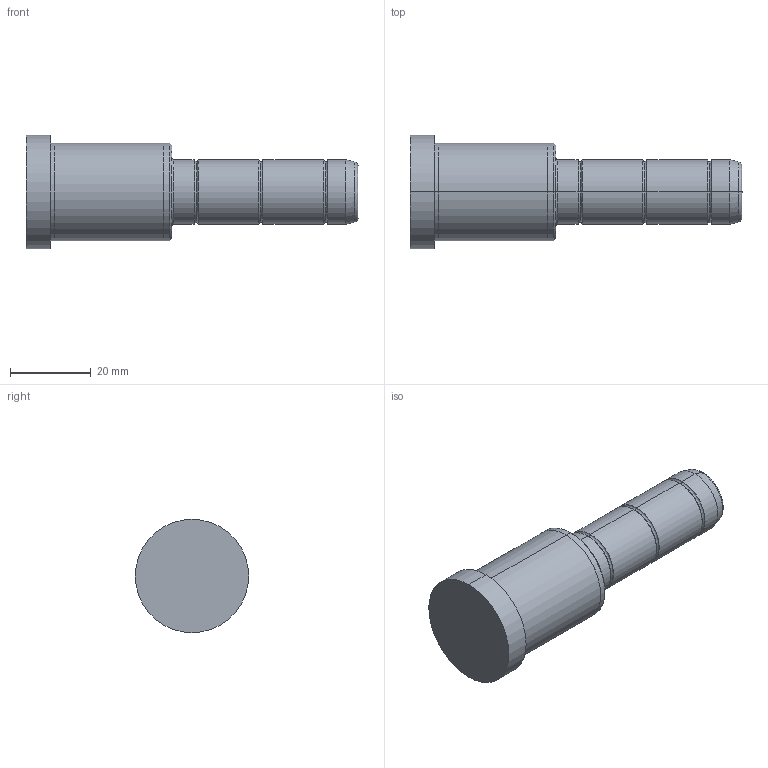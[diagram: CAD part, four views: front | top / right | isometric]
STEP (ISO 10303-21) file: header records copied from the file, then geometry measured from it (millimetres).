
FILE_DESCRIPTION( ( 'STEP AP203' ), '1' );
FILE_NAME( 'D:/Delta 3 D/D02/16/D02 - 16x36x46.step', '2003-01-04T13:14:26', ( ' ' ), ( ' ' ), 'XStep 1.0', ' ', ' ' );
FILE_SCHEMA( ( 'CONFIG_CONTROL_DESIGN' ) );
Length unit declared in the file: metre
Products named in the file (1): 1
Bounding box: 82 x 28 x 28 mm (x, y, z)
Volume: 26407.6 mm3; surface area: 6328.8 mm2
Topology: 1 solids, 1 shells, 42 faces, 82 edges, 46 vertices
Faces by surface type: bspline 22, revolution 20
Entity records: 1325 total; most frequent: CARTESIAN_POINT 517, ORIENTED_EDGE 164, DIRECTION 134, EDGE_CURVE 82, AXIS2_PLACEMENT_3D 47, EDGE_LOOP 46, VERTEX_POINT 46, CIRCLE 46
